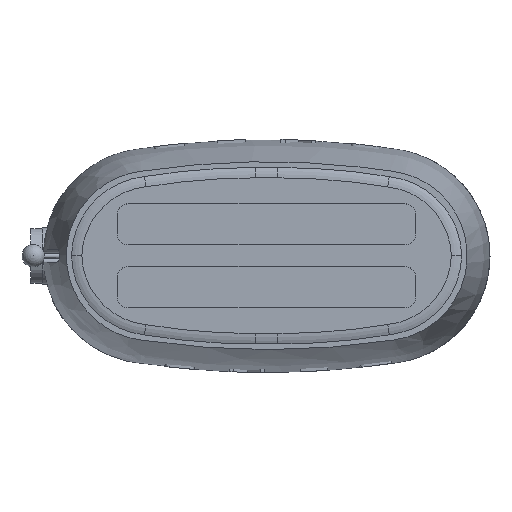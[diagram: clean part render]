
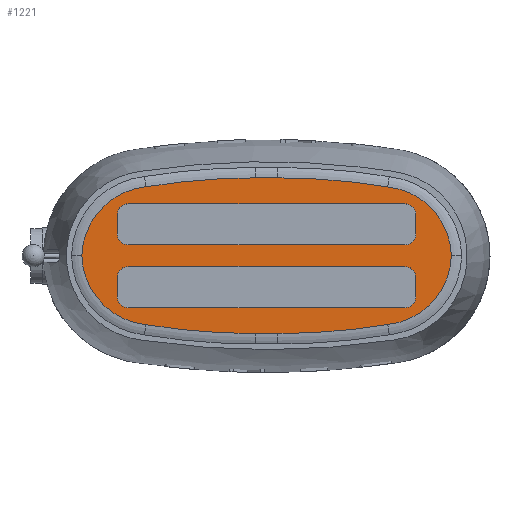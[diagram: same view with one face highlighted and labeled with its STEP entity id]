
A CAD part, top view. The second image highlights one B-rep face of the part: STEP entity #1221.
In plain terms, the highlighted planar face has unit normal (0, 0, 1).
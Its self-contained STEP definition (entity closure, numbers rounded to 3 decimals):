
#333=FACE_BOUND('',#1883,.T.);
#334=FACE_BOUND('',#1884,.T.);
#335=FACE_BOUND('',#1885,.T.);
#706=LINE('',#8142,#946);
#707=LINE('',#8146,#947);
#708=LINE('',#8150,#948);
#709=LINE('',#8154,#949);
#710=LINE('',#8158,#950);
#711=LINE('',#8162,#951);
#712=LINE('',#8166,#952);
#713=LINE('',#8170,#953);
#714=LINE('',#8178,#954);
#715=LINE('',#8188,#955);
#946=VECTOR('',#5194,1.);
#947=VECTOR('',#5197,1.);
#948=VECTOR('',#5200,1.);
#949=VECTOR('',#5203,1.);
#950=VECTOR('',#5206,1.);
#951=VECTOR('',#5209,1.);
#952=VECTOR('',#5212,1.);
#953=VECTOR('',#5215,1.);
#954=VECTOR('',#5222,1.);
#955=VECTOR('',#5231,1.);
#1221=ADVANCED_FACE('',(#333,#334,#335),#1434,.T.);
#1434=PLANE('',#4638);
#1883=EDGE_LOOP('',(#2426,#2427,#2428,#2429,#2430,#2431,#2432,#2433));
#1884=EDGE_LOOP('',(#2434,#2435,#2436,#2437,#2438,#2439,#2440,#2441));
#1885=EDGE_LOOP('',(#2442,#2443,#2444,#2445,#2446,#2447,#2448,#2449,#2450,
#2451));
#2426=ORIENTED_EDGE('',*,*,#3931,.T.);
#2427=ORIENTED_EDGE('',*,*,#3932,.T.);
#2428=ORIENTED_EDGE('',*,*,#3933,.T.);
#2429=ORIENTED_EDGE('',*,*,#3934,.T.);
#2430=ORIENTED_EDGE('',*,*,#3935,.T.);
#2431=ORIENTED_EDGE('',*,*,#3936,.T.);
#2432=ORIENTED_EDGE('',*,*,#3937,.T.);
#2433=ORIENTED_EDGE('',*,*,#3938,.T.);
#2434=ORIENTED_EDGE('',*,*,#3939,.T.);
#2435=ORIENTED_EDGE('',*,*,#3940,.T.);
#2436=ORIENTED_EDGE('',*,*,#3941,.T.);
#2437=ORIENTED_EDGE('',*,*,#3942,.T.);
#2438=ORIENTED_EDGE('',*,*,#3943,.T.);
#2439=ORIENTED_EDGE('',*,*,#3944,.T.);
#2440=ORIENTED_EDGE('',*,*,#3945,.T.);
#2441=ORIENTED_EDGE('',*,*,#3946,.T.);
#2442=ORIENTED_EDGE('',*,*,#3947,.T.);
#2443=ORIENTED_EDGE('',*,*,#3948,.T.);
#2444=ORIENTED_EDGE('',*,*,#3949,.T.);
#2445=ORIENTED_EDGE('',*,*,#3950,.T.);
#2446=ORIENTED_EDGE('',*,*,#3951,.T.);
#2447=ORIENTED_EDGE('',*,*,#3952,.T.);
#2448=ORIENTED_EDGE('',*,*,#3953,.T.);
#2449=ORIENTED_EDGE('',*,*,#3954,.T.);
#2450=ORIENTED_EDGE('',*,*,#3955,.T.);
#2451=ORIENTED_EDGE('',*,*,#3956,.T.);
#3457=VERTEX_POINT('',#8140);
#3458=VERTEX_POINT('',#8141);
#3459=VERTEX_POINT('',#8143);
#3460=VERTEX_POINT('',#8145);
#3461=VERTEX_POINT('',#8147);
#3462=VERTEX_POINT('',#8149);
#3463=VERTEX_POINT('',#8151);
#3464=VERTEX_POINT('',#8153);
#3465=VERTEX_POINT('',#8156);
#3466=VERTEX_POINT('',#8157);
#3467=VERTEX_POINT('',#8159);
#3468=VERTEX_POINT('',#8161);
#3469=VERTEX_POINT('',#8163);
#3470=VERTEX_POINT('',#8165);
#3471=VERTEX_POINT('',#8167);
#3472=VERTEX_POINT('',#8169);
#3473=VERTEX_POINT('',#8172);
#3474=VERTEX_POINT('',#8173);
#3475=VERTEX_POINT('',#8175);
#3476=VERTEX_POINT('',#8177);
#3477=VERTEX_POINT('',#8179);
#3478=VERTEX_POINT('',#8181);
#3479=VERTEX_POINT('',#8183);
#3480=VERTEX_POINT('',#8185);
#3481=VERTEX_POINT('',#8187);
#3482=VERTEX_POINT('',#8189);
#3931=EDGE_CURVE('',#3457,#3458,#4427,.T.);
#3932=EDGE_CURVE('',#3458,#3459,#706,.T.);
#3933=EDGE_CURVE('',#3459,#3460,#4428,.T.);
#3934=EDGE_CURVE('',#3460,#3461,#707,.T.);
#3935=EDGE_CURVE('',#3461,#3462,#4429,.T.);
#3936=EDGE_CURVE('',#3462,#3463,#708,.T.);
#3937=EDGE_CURVE('',#3463,#3464,#4430,.T.);
#3938=EDGE_CURVE('',#3464,#3457,#709,.T.);
#3939=EDGE_CURVE('',#3465,#3466,#4431,.T.);
#3940=EDGE_CURVE('',#3466,#3467,#710,.T.);
#3941=EDGE_CURVE('',#3467,#3468,#4432,.T.);
#3942=EDGE_CURVE('',#3468,#3469,#711,.T.);
#3943=EDGE_CURVE('',#3469,#3470,#4433,.T.);
#3944=EDGE_CURVE('',#3470,#3471,#712,.T.);
#3945=EDGE_CURVE('',#3471,#3472,#4434,.T.);
#3946=EDGE_CURVE('',#3472,#3465,#713,.T.);
#3947=EDGE_CURVE('',#3473,#3474,#4435,.T.);
#3948=EDGE_CURVE('',#3474,#3475,#4436,.T.);
#3949=EDGE_CURVE('',#3475,#3476,#4437,.T.);
#3950=EDGE_CURVE('',#3476,#3477,#714,.T.);
#3951=EDGE_CURVE('',#3477,#3478,#4438,.T.);
#3952=EDGE_CURVE('',#3478,#3479,#4439,.T.);
#3953=EDGE_CURVE('',#3479,#3480,#4440,.T.);
#3954=EDGE_CURVE('',#3480,#3481,#4441,.T.);
#3955=EDGE_CURVE('',#3481,#3482,#715,.T.);
#3956=EDGE_CURVE('',#3482,#3473,#4442,.T.);
#4427=CIRCLE('',#4622,10.);
#4428=CIRCLE('',#4623,10.);
#4429=CIRCLE('',#4624,10.);
#4430=CIRCLE('',#4625,10.);
#4431=CIRCLE('',#4626,10.);
#4432=CIRCLE('',#4627,10.);
#4433=CIRCLE('',#4628,10.);
#4434=CIRCLE('',#4629,10.);
#4435=CIRCLE('',#4630,62.962);
#4436=CIRCLE('',#4631,62.962);
#4437=CIRCLE('',#4632,594.74);
#4438=CIRCLE('',#4633,594.74);
#4439=CIRCLE('',#4634,63.011);
#4440=CIRCLE('',#4635,63.011);
#4441=CIRCLE('',#4636,594.74);
#4442=CIRCLE('',#4637,594.74);
#4622=AXIS2_PLACEMENT_3D('',#8139,#5192,#5193);
#4623=AXIS2_PLACEMENT_3D('',#8144,#5195,#5196);
#4624=AXIS2_PLACEMENT_3D('',#8148,#5198,#5199);
#4625=AXIS2_PLACEMENT_3D('',#8152,#5201,#5202);
#4626=AXIS2_PLACEMENT_3D('',#8155,#5204,#5205);
#4627=AXIS2_PLACEMENT_3D('',#8160,#5207,#5208);
#4628=AXIS2_PLACEMENT_3D('',#8164,#5210,#5211);
#4629=AXIS2_PLACEMENT_3D('',#8168,#5213,#5214);
#4630=AXIS2_PLACEMENT_3D('',#8171,#5216,#5217);
#4631=AXIS2_PLACEMENT_3D('',#8174,#5218,#5219);
#4632=AXIS2_PLACEMENT_3D('',#8176,#5220,#5221);
#4633=AXIS2_PLACEMENT_3D('',#8180,#5223,#5224);
#4634=AXIS2_PLACEMENT_3D('',#8182,#5225,#5226);
#4635=AXIS2_PLACEMENT_3D('',#8184,#5227,#5228);
#4636=AXIS2_PLACEMENT_3D('',#8186,#5229,#5230);
#4637=AXIS2_PLACEMENT_3D('',#8190,#5232,#5233);
#4638=AXIS2_PLACEMENT_3D('',#8191,#5234,#5235);
#5192=DIRECTION('',(0.,0.,-1.));
#5193=DIRECTION('',(1.,0.,0.));
#5194=DIRECTION('',(-1.,0.,0.));
#5195=DIRECTION('',(0.,0.,-1.));
#5196=DIRECTION('',(1.,0.,0.));
#5197=DIRECTION('',(0.,1.,0.));
#5198=DIRECTION('',(0.,0.,-1.));
#5199=DIRECTION('',(1.,0.,0.));
#5200=DIRECTION('',(1.,0.,0.));
#5201=DIRECTION('',(0.,0.,-1.));
#5202=DIRECTION('',(1.,0.,0.));
#5203=DIRECTION('',(0.,-1.,0.));
#5204=DIRECTION('',(0.,0.,-1.));
#5205=DIRECTION('',(1.,0.,0.));
#5206=DIRECTION('',(0.,1.,0.));
#5207=DIRECTION('',(0.,0.,-1.));
#5208=DIRECTION('',(1.,0.,0.));
#5209=DIRECTION('',(1.,0.,0.));
#5210=DIRECTION('',(0.,0.,-1.));
#5211=DIRECTION('',(1.,0.,0.));
#5212=DIRECTION('',(0.,-1.,0.));
#5213=DIRECTION('',(0.,0.,-1.));
#5214=DIRECTION('',(1.,0.,0.));
#5215=DIRECTION('',(-1.,0.,0.));
#5216=DIRECTION('',(0.,0.,1.));
#5217=DIRECTION('',(1.,0.,0.));
#5218=DIRECTION('',(0.,0.,1.));
#5219=DIRECTION('',(1.,0.,0.));
#5220=DIRECTION('',(0.,0.,1.));
#5221=DIRECTION('',(1.,0.,0.));
#5222=DIRECTION('',(-1.,0.,0.));
#5223=DIRECTION('',(0.,0.,1.));
#5224=DIRECTION('',(1.,0.,0.));
#5225=DIRECTION('',(0.,0.,1.));
#5226=DIRECTION('',(1.,0.,0.));
#5227=DIRECTION('',(0.,0.,1.));
#5228=DIRECTION('',(1.,0.,0.));
#5229=DIRECTION('',(0.,0.,1.));
#5230=DIRECTION('',(1.,0.,0.));
#5231=DIRECTION('',(1.,0.,0.));
#5232=DIRECTION('',(0.,0.,1.));
#5233=DIRECTION('',(1.,0.,0.));
#5234=DIRECTION('',(0.,0.,1.));
#5235=DIRECTION('',(1.,0.,0.));
#8139=CARTESIAN_POINT('',(122.,19.5,202.));
#8140=CARTESIAN_POINT('',(132.,19.5,202.));
#8141=CARTESIAN_POINT('',(122.,9.5,202.));
#8142=CARTESIAN_POINT('',(-100.34,9.5,202.));
#8143=CARTESIAN_POINT('',(-122.,9.5,202.));
#8144=CARTESIAN_POINT('',(-122.,19.5,202.));
#8145=CARTESIAN_POINT('',(-132.,19.5,202.));
#8146=CARTESIAN_POINT('',(-132.,-1.77,202.));
#8147=CARTESIAN_POINT('',(-132.,36.,202.));
#8148=CARTESIAN_POINT('',(-122.,36.,202.));
#8149=CARTESIAN_POINT('',(-122.,46.,202.));
#8150=CARTESIAN_POINT('',(-100.34,46.,202.));
#8151=CARTESIAN_POINT('',(122.,46.,202.));
#8152=CARTESIAN_POINT('',(122.,36.,202.));
#8153=CARTESIAN_POINT('',(132.,36.,202.));
#8154=CARTESIAN_POINT('',(132.,-1.77,202.));
#8155=CARTESIAN_POINT('',(-122.,-36.,202.));
#8156=CARTESIAN_POINT('',(-122.,-46.,202.));
#8157=CARTESIAN_POINT('',(-132.,-36.,202.));
#8158=CARTESIAN_POINT('',(-132.,-1.77,202.));
#8159=CARTESIAN_POINT('',(-132.,-19.5,202.));
#8160=CARTESIAN_POINT('',(-122.,-19.5,202.));
#8161=CARTESIAN_POINT('',(-122.,-9.5,202.));
#8162=CARTESIAN_POINT('',(-100.34,-9.5,202.));
#8163=CARTESIAN_POINT('',(122.,-9.5,202.));
#8164=CARTESIAN_POINT('',(122.,-19.5,202.));
#8165=CARTESIAN_POINT('',(132.,-19.5,202.));
#8166=CARTESIAN_POINT('',(132.,-1.77,202.));
#8167=CARTESIAN_POINT('',(132.,-36.,202.));
#8168=CARTESIAN_POINT('',(122.,-36.,202.));
#8169=CARTESIAN_POINT('',(122.,-46.,202.));
#8170=CARTESIAN_POINT('',(-100.34,-46.,202.));
#8171=CARTESIAN_POINT('',(100.389,1.751,202.));
#8172=CARTESIAN_POINT('',(107.141,-60.848,202.));
#8173=CARTESIAN_POINT('',(163.326,0.,202.));
#8174=CARTESIAN_POINT('',(100.389,-1.751,202.));
#8175=CARTESIAN_POINT('',(107.141,60.848,202.));
#8176=CARTESIAN_POINT('',(10.,-525.905,202.));
#8177=CARTESIAN_POINT('',(10.,68.835,202.));
#8178=CARTESIAN_POINT('',(-10.,68.835,202.));
#8179=CARTESIAN_POINT('',(-10.,68.835,202.));
#8180=CARTESIAN_POINT('',(-10.,-525.905,202.));
#8181=CARTESIAN_POINT('',(-106.727,60.916,202.));
#8182=CARTESIAN_POINT('',(-100.34,-1.77,202.));
#8183=CARTESIAN_POINT('',(-163.326,0.,202.));
#8184=CARTESIAN_POINT('',(-100.34,1.77,202.));
#8185=CARTESIAN_POINT('',(-106.727,-60.916,202.));
#8186=CARTESIAN_POINT('',(-10.,525.905,202.));
#8187=CARTESIAN_POINT('',(-10.,-68.835,202.));
#8188=CARTESIAN_POINT('',(10.,-68.835,202.));
#8189=CARTESIAN_POINT('',(10.,-68.835,202.));
#8190=CARTESIAN_POINT('',(10.,525.905,202.));
#8191=CARTESIAN_POINT('',(-100.34,-1.77,202.));
